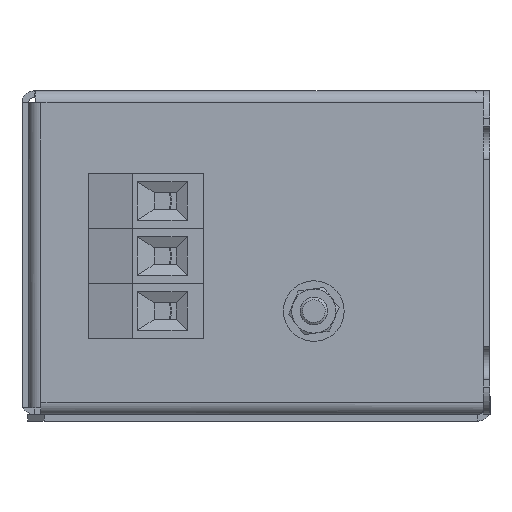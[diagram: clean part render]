
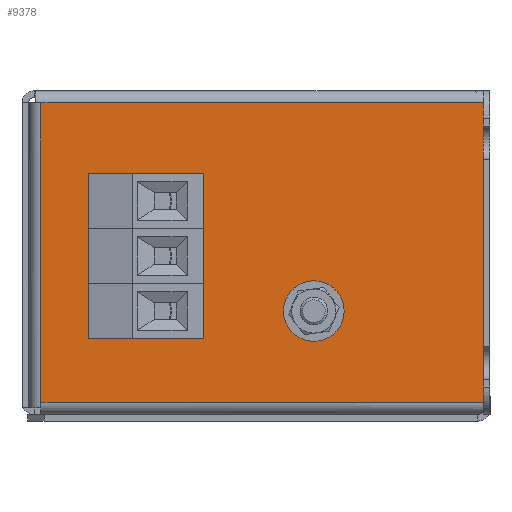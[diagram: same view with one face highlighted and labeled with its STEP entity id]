
A CAD part, left-side view. The second image highlights one B-rep face of the part: STEP entity #9378.
In plain terms, the highlighted planar face has unit normal (-1, 0, 0).
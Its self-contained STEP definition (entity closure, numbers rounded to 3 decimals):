
#101 = VECTOR ( 'NONE', #11084, 1000. ) ;
#265 = EDGE_LOOP ( 'NONE', ( #1400, #11834 ) ) ;
#418 = LINE ( 'NONE', #4385, #101 ) ;
#520 = CARTESIAN_POINT ( 'NONE',  ( -2.2, 60.8, -34.65 ) ) ;
#937 = ORIENTED_EDGE ( 'NONE', *, *, #6283, .T. ) ;
#1027 = AXIS2_PLACEMENT_3D ( 'NONE', #1941, #3902, #3868 ) ;
#1091 = DIRECTION ( 'NONE',  ( 1., 0., 0. ) ) ;
#1168 = ORIENTED_EDGE ( 'NONE', *, *, #2117, .T. ) ;
#1175 = EDGE_LOOP ( 'NONE', ( #12125, #11601 ) ) ;
#1400 = ORIENTED_EDGE ( 'NONE', *, *, #5274, .T. ) ;
#1402 = ORIENTED_EDGE ( 'NONE', *, *, #7105, .T. ) ;
#1432 = DIRECTION ( 'NONE',  ( 0., 0., -1. ) ) ;
#1450 = AXIS2_PLACEMENT_3D ( 'NONE', #10988, #5077, #11117 ) ;
#1717 = EDGE_LOOP ( 'NONE', ( #3360, #1402 ) ) ;
#1754 = LINE ( 'NONE', #6298, #11705 ) ;
#1803 = VECTOR ( 'NONE', #6532, 1000. ) ;
#1813 = FACE_BOUND ( 'NONE', #1175, .T. ) ;
#1941 = CARTESIAN_POINT ( 'NONE',  ( -2.2, 60.8, -18.8 ) ) ;
#2117 = EDGE_CURVE ( 'NONE', #3521, #6159, #418, .T. ) ;
#2816 = VERTEX_POINT ( 'NONE', #520 ) ;
#3360 = ORIENTED_EDGE ( 'NONE', *, *, #8325, .T. ) ;
#3411 = CIRCLE ( 'NONE', #10882, 4.15 ) ;
#3485 = FACE_OUTER_BOUND ( 'NONE', #8156, .T. ) ;
#3521 = VERTEX_POINT ( 'NONE', #10294 ) ;
#3653 = AXIS2_PLACEMENT_3D ( 'NONE', #10778, #5878, #7784 ) ;
#3752 = VERTEX_POINT ( 'NONE', #7438 ) ;
#3867 = AXIS2_PLACEMENT_3D ( 'NONE', #10525, #12462, #8618 ) ;
#3868 = DIRECTION ( 'NONE',  ( 0., 0., -1. ) ) ;
#3902 = DIRECTION ( 'NONE',  ( 1., 0., 0. ) ) ;
#3915 = CARTESIAN_POINT ( 'NONE',  ( -2.2, 60.8, -28.8 ) ) ;
#3990 = VERTEX_POINT ( 'NONE', #11749 ) ;
#4069 = VERTEX_POINT ( 'NONE', #5874 ) ;
#4108 = AXIS2_PLACEMENT_3D ( 'NONE', #11720, #10983, #11759 ) ;
#4385 = CARTESIAN_POINT ( 'NONE',  ( -2.2, 80.35, -55.4 ) ) ;
#4410 = CARTESIAN_POINT ( 'NONE',  ( -2.2, 0., -55.4 ) ) ;
#4664 = DIRECTION ( 'NONE',  ( 0., 0., -1. ) ) ;
#4987 = EDGE_CURVE ( 'NONE', #2816, #11381, #11629, .T. ) ;
#5077 = DIRECTION ( 'NONE',  ( 1., 0., 0. ) ) ;
#5129 = VECTOR ( 'NONE', #10707, 1000. ) ;
#5197 = EDGE_CURVE ( 'NONE', #6159, #6981, #10708, .T. ) ;
#5274 = EDGE_CURVE ( 'NONE', #10667, #11932, #10069, .T. ) ;
#5301 = FACE_BOUND ( 'NONE', #265, .T. ) ;
#5528 = ORIENTED_EDGE ( 'NONE', *, *, #9993, .F. ) ;
#5669 = VERTEX_POINT ( 'NONE', #8574 ) ;
#5874 = CARTESIAN_POINT ( 'NONE',  ( -2.2, 60.8, -14.65 ) ) ;
#5878 = DIRECTION ( 'NONE',  ( 1., 0., 0. ) ) ;
#6159 = VERTEX_POINT ( 'NONE', #4410 ) ;
#6252 = CIRCLE ( 'NONE', #10681, 2.5 ) ;
#6283 = EDGE_CURVE ( 'NONE', #3990, #3521, #1754, .T. ) ;
#6298 = CARTESIAN_POINT ( 'NONE',  ( -2.2, 80.35, -1. ) ) ;
#6350 = EDGE_CURVE ( 'NONE', #3752, #4069, #3411, .T. ) ;
#6473 = DIRECTION ( 'NONE',  ( 1., 0., 0. ) ) ;
#6532 = DIRECTION ( 'NONE',  ( 0., -1., 0. ) ) ;
#6535 = FACE_BOUND ( 'NONE', #12245, .T. ) ;
#6561 = DIRECTION ( 'NONE',  ( 0., 0., -1. ) ) ;
#6588 = CARTESIAN_POINT ( 'NONE',  ( -2.2, 0., -1. ) ) ;
#6600 = PLANE ( 'NONE',  #3867 ) ;
#6622 = CARTESIAN_POINT ( 'NONE',  ( -2.2, 30.8, -38.8 ) ) ;
#6762 = EDGE_CURVE ( 'NONE', #11932, #10667, #8610, .T. ) ;
#6763 = CARTESIAN_POINT ( 'NONE',  ( -2.2, 60.8, -32.95 ) ) ;
#6849 = FACE_BOUND ( 'NONE', #1717, .T. ) ;
#6981 = VERTEX_POINT ( 'NONE', #6588 ) ;
#7037 = CARTESIAN_POINT ( 'NONE',  ( -2.2, 60.8, -24.65 ) ) ;
#7103 = EDGE_CURVE ( 'NONE', #4069, #3752, #11984, .T. ) ;
#7105 = EDGE_CURVE ( 'NONE', #9318, #5669, #12143, .T. ) ;
#7268 = DIRECTION ( 'NONE',  ( 1., 0., 0. ) ) ;
#7285 = ORIENTED_EDGE ( 'NONE', *, *, #4987, .T. ) ;
#7438 = CARTESIAN_POINT ( 'NONE',  ( -2.2, 60.8, -22.95 ) ) ;
#7784 = DIRECTION ( 'NONE',  ( 0., 0., -1. ) ) ;
#8156 = EDGE_LOOP ( 'NONE', ( #1168, #9114, #5528, #937 ) ) ;
#8172 = CARTESIAN_POINT ( 'NONE',  ( -2.2, 60.8, -42.95 ) ) ;
#8325 = EDGE_CURVE ( 'NONE', #5669, #9318, #6252, .T. ) ;
#8529 = LINE ( 'NONE', #10596, #1803 ) ;
#8574 = CARTESIAN_POINT ( 'NONE',  ( -2.2, 30.8, -41.3 ) ) ;
#8610 = CIRCLE ( 'NONE', #1450, 4.15 ) ;
#8618 = DIRECTION ( 'NONE',  ( 0., 0., -1. ) ) ;
#8946 = DIRECTION ( 'NONE',  ( 0., 0., -1. ) ) ;
#9114 = ORIENTED_EDGE ( 'NONE', *, *, #5197, .T. ) ;
#9318 = VERTEX_POINT ( 'NONE', #10451 ) ;
#9322 = DIRECTION ( 'NONE',  ( 0., 0., -1. ) ) ;
#9378 = ADVANCED_FACE ( 'NONE', ( #6849, #1813, #6535, #5301, #3485 ), #6600, .F. ) ;
#9583 = CARTESIAN_POINT ( 'NONE',  ( -2.2, 0., 0. ) ) ;
#9879 = ORIENTED_EDGE ( 'NONE', *, *, #11225, .T. ) ;
#9993 = EDGE_CURVE ( 'NONE', #3990, #6981, #8529, .T. ) ;
#10069 = CIRCLE ( 'NONE', #12094, 4.15 ) ;
#10165 = CARTESIAN_POINT ( 'NONE',  ( -2.2, 60.8, -38.8 ) ) ;
#10294 = CARTESIAN_POINT ( 'NONE',  ( -2.2, 80.35, -55.4 ) ) ;
#10416 = CARTESIAN_POINT ( 'NONE',  ( -2.2, 60.8, -18.8 ) ) ;
#10451 = CARTESIAN_POINT ( 'NONE',  ( -2.2, 30.8, -36.3 ) ) ;
#10525 = CARTESIAN_POINT ( 'NONE',  ( -2.2, 81.35, 0. ) ) ;
#10596 = CARTESIAN_POINT ( 'NONE',  ( -2.2, 0., -1. ) ) ;
#10667 = VERTEX_POINT ( 'NONE', #6763 ) ;
#10681 = AXIS2_PLACEMENT_3D ( 'NONE', #6622, #11622, #4664 ) ;
#10707 = DIRECTION ( 'NONE',  ( 0., 0., 1. ) ) ;
#10708 = LINE ( 'NONE', #9583, #5129 ) ;
#10778 = CARTESIAN_POINT ( 'NONE',  ( -2.2, 30.8, -38.8 ) ) ;
#10882 = AXIS2_PLACEMENT_3D ( 'NONE', #10416, #6473, #6561 ) ;
#10983 = DIRECTION ( 'NONE',  ( 1., 0., 0. ) ) ;
#10988 = CARTESIAN_POINT ( 'NONE',  ( -2.2, 60.8, -28.8 ) ) ;
#11084 = DIRECTION ( 'NONE',  ( 0., -1., 0. ) ) ;
#11117 = DIRECTION ( 'NONE',  ( 0., 0., -1. ) ) ;
#11225 = EDGE_CURVE ( 'NONE', #11381, #2816, #11300, .T. ) ;
#11300 = CIRCLE ( 'NONE', #4108, 4.15 ) ;
#11381 = VERTEX_POINT ( 'NONE', #8172 ) ;
#11457 = AXIS2_PLACEMENT_3D ( 'NONE', #10165, #7268, #1432 ) ;
#11601 = ORIENTED_EDGE ( 'NONE', *, *, #7103, .T. ) ;
#11622 = DIRECTION ( 'NONE',  ( 1., 0., 0. ) ) ;
#11629 = CIRCLE ( 'NONE', #11457, 4.15 ) ;
#11705 = VECTOR ( 'NONE', #9322, 1000. ) ;
#11720 = CARTESIAN_POINT ( 'NONE',  ( -2.2, 60.8, -38.8 ) ) ;
#11749 = CARTESIAN_POINT ( 'NONE',  ( -2.2, 80.35, -1. ) ) ;
#11759 = DIRECTION ( 'NONE',  ( 0., 0., -1. ) ) ;
#11834 = ORIENTED_EDGE ( 'NONE', *, *, #6762, .T. ) ;
#11932 = VERTEX_POINT ( 'NONE', #7037 ) ;
#11984 = CIRCLE ( 'NONE', #1027, 4.15 ) ;
#12094 = AXIS2_PLACEMENT_3D ( 'NONE', #3915, #1091, #8946 ) ;
#12125 = ORIENTED_EDGE ( 'NONE', *, *, #6350, .T. ) ;
#12143 = CIRCLE ( 'NONE', #3653, 2.5 ) ;
#12245 = EDGE_LOOP ( 'NONE', ( #9879, #7285 ) ) ;
#12462 = DIRECTION ( 'NONE',  ( 1., 0., 0. ) ) ;
